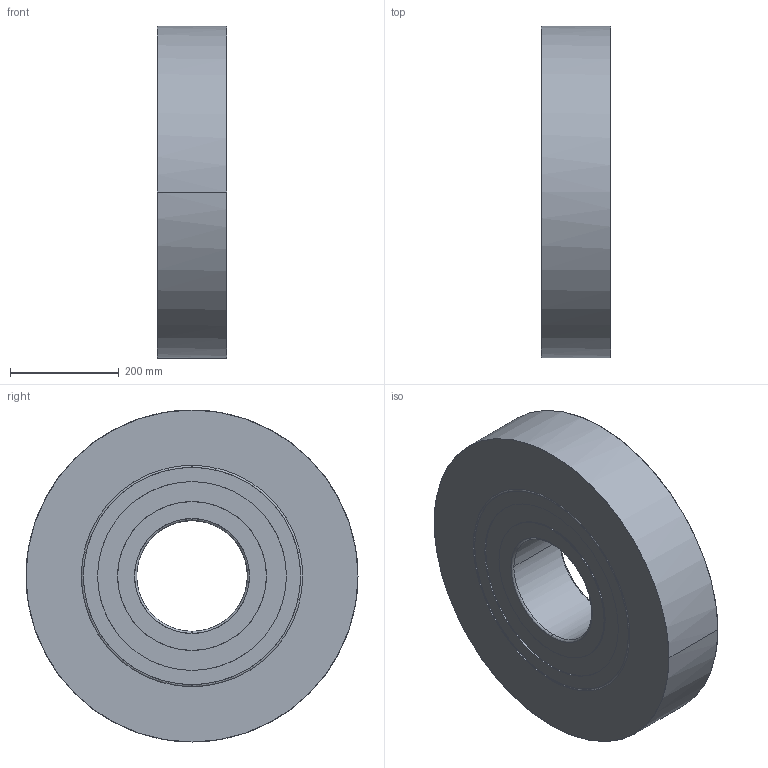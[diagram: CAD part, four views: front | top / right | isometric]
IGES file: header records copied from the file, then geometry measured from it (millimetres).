
Global section: native system: Kubotek KeyCreator; preprocessor: KCM Version 1.1.1442.0; author: KeyCreator User; organization: Self; date: 20170714.090757; units: inch
Bounding box: 127 x 609.6 x 609.6 mm (x, y, z)
Surface area: 866430.9 mm2 (no closed solid volume)
Topology: 0 solids, 0 shells, 32 faces, 208 edges, 208 vertices
Faces by surface type: bspline 32
